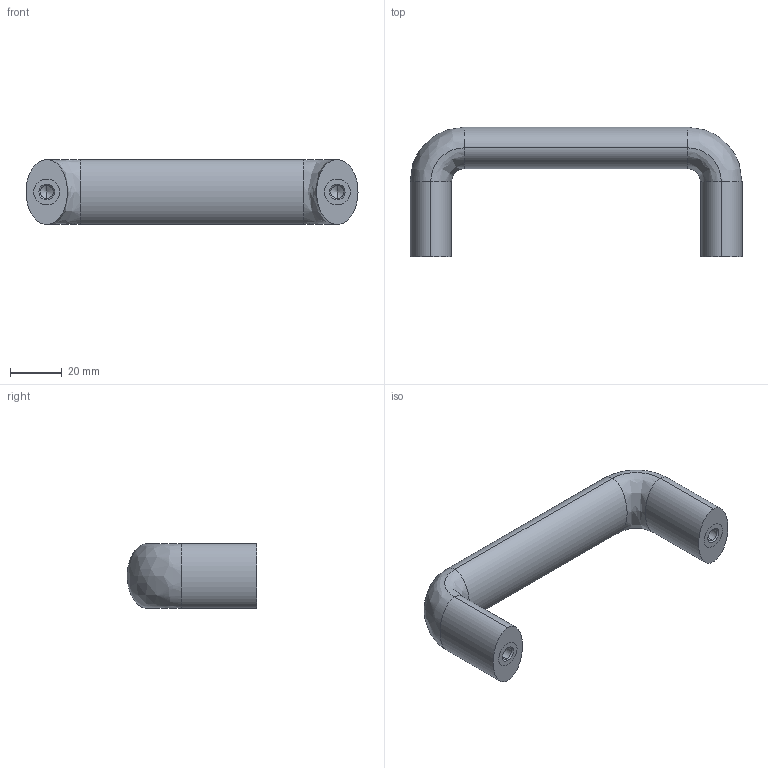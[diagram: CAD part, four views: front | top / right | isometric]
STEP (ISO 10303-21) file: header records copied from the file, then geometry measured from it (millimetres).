
FILE_DESCRIPTION (( 'STEP AP203' ), '1' );
FILE_NAME ('Wiberger-gn564_112-m6.step', '2013-12-16T10:52:49', ( 'Magnus' ), ( 'Wiberger' ), 'SwSTEP 2.0', 'SolidWorks 2011', '' );
FILE_SCHEMA (( 'CONFIG_CONTROL_DESIGN' ));
Length unit declared in the file: millimetre
Products named in the file (1): Wiberger-gn564_112-m6
Bounding box: 128 x 50 x 25 mm (x, y, z)
Volume: 57653.3 mm3; surface area: 24602 mm2
Topology: 2 solids, 2 shells, 46 faces, 98 edges, 54 vertices
Faces by surface type: cylinder 16, bspline 10, torus 8, cone 8, plane 4
Entity records: 1343 total; most frequent: CARTESIAN_POINT 333, DIRECTION 208, ORIENTED_EDGE 188, EDGE_CURVE 94, AXIS2_PLACEMENT_3D 89, VERTEX_POINT 54, CIRCLE 52, EDGE_LOOP 50
